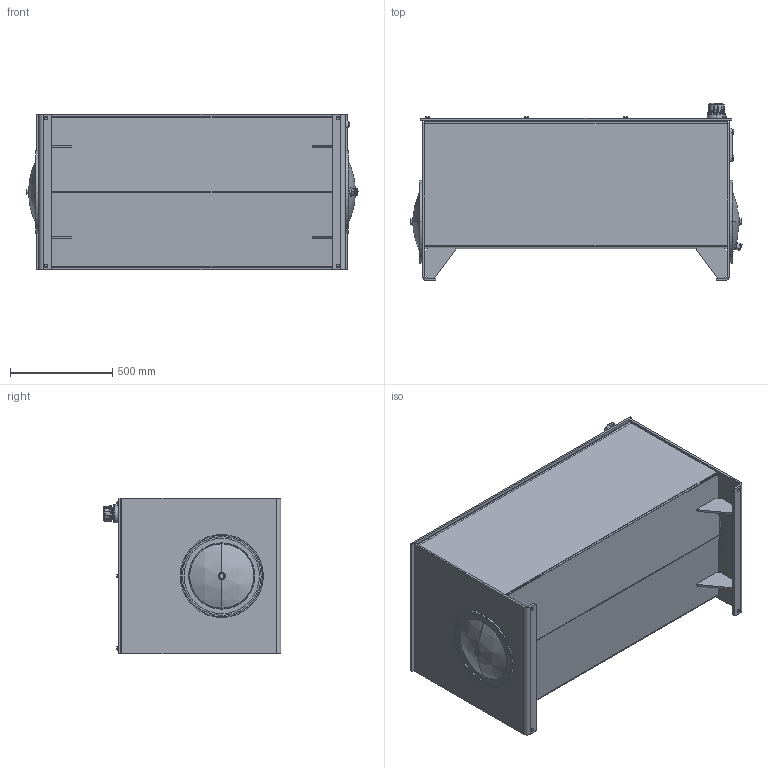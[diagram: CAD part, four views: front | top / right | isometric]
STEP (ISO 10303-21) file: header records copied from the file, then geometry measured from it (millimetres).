
FILE_DESCRIPTION (( 'STEP AP203' ), '1' );
FILE_NAME ('RJIC150-RT.STEP', '2015-01-08T15:45:11', ( '' ), ( '' ), 'SwSTEP 2.0', 'SolidWorks 2014', '' );
FILE_SCHEMA (( 'CONFIG_CONTROL_DESIGN' ));
Length unit declared in the file: inch
Products named in the file (1): RJIC150-RT
Bounding box: 1624.13 x 869.44 x 762 mm (x, y, z)
Volume: 37170584.5 mm3; surface area: 13852682.2 mm2
Topology: 49 solids, 49 shells, 1105 faces, 2527 edges, 1544 vertices
Faces by surface type: plane 410, cylinder 380, torus 131, cone 104, bspline 48, sphere 32
Entity records: 34214 total; most frequent: CARTESIAN_POINT 8626, DIRECTION 5676, ORIENTED_EDGE 5030, EDGE_CURVE 2515, AXIS2_PLACEMENT_3D 2251, VERTEX_POINT 1544, EDGE_LOOP 1275, CIRCLE 1193
